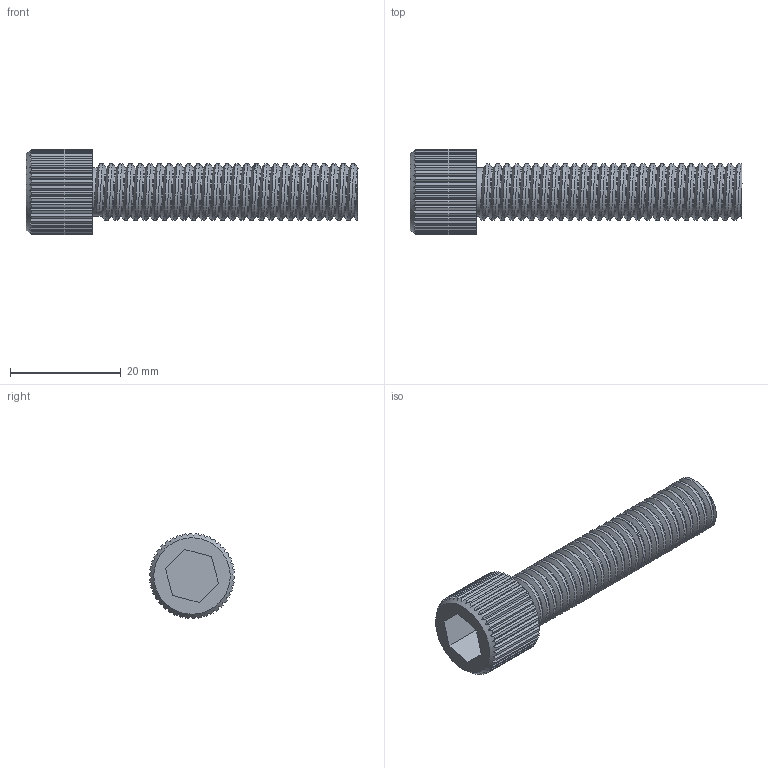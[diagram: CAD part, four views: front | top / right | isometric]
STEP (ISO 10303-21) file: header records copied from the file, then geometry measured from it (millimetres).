
FILE_DESCRIPTION ((), '1');
FILE_NAME ('C:\Users\tprototype\Desktop\TeslaGen-v1\Vendor Parts\M10 Fittings\M10 Socket Screw\M10 Socket Screw.stp', '2016-01-05T23:28:13', ('Unknown'), ('Unknown'), 'HarmonyWare STEP v1.7.11', 'HarmonyWare Translators', '');
FILE_SCHEMA (('CONFIG_CONTROL_DESIGN'));
Products named in the file (1): product-name: product-name
Bounding box: 60 x 15.43 x 15.43 mm (x, y, z)
Volume: 5200.8 mm3; surface area: 3384 mm2
Topology: 1 solids, 1 shells, 186 faces, 539 edges, 357 vertices
Faces by surface type: bspline 186
Entity records: 47561 total; most frequent: CARTESIAN_POINT 44369, ORIENTED_EDGE 1078, EDGE_CURVE 539, B_SPLINE_CURVE_WITH_KNOTS 447, VERTEX_POINT 357, EDGE_LOOP 188, FACE_OUTER_BOUND 186, ADVANCED_FACE 186
